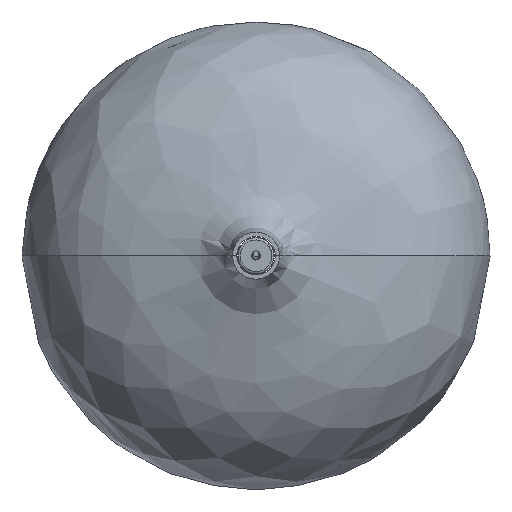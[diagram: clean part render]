
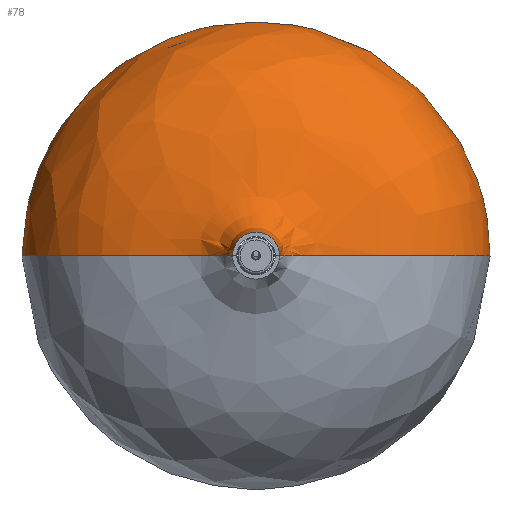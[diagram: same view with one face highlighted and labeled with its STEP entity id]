
A CAD part, top view. The second image highlights one B-rep face of the part: STEP entity #78.
In plain terms, the highlighted free-form (B-spline) face has degree [3, 2] with [8, 5] control points.
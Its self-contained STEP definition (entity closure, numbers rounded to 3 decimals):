
#36=B_SPLINE_CURVE_WITH_KNOTS('',3,(#2552,#2553,#2554,#2555,#2556,#2557,
#2558,#2559),.UNSPECIFIED.,.F.,.F.,(4,1,1,1,1,4),(0.,58.339,116.678,
175.017,233.355,291.694),.UNSPECIFIED.);
#78=ADVANCED_FACE('',(#109),#439,.T.);
#109=FACE_OUTER_BOUND('',#145,.T.);
#145=EDGE_LOOP('',(#244,#245,#246,#247));
#244=ORIENTED_EDGE('',*,*,#319,.T.);
#245=ORIENTED_EDGE('',*,*,#318,.F.);
#246=ORIENTED_EDGE('',*,*,#317,.F.);
#247=ORIENTED_EDGE('',*,*,#320,.F.);
#317=EDGE_CURVE('',#407,#408,#36,.T.);
#318=EDGE_CURVE('',#408,#410,#367,.T.);
#319=EDGE_CURVE('',#409,#410,#368,.T.);
#320=EDGE_CURVE('',#409,#407,#369,.T.);
#367=(
BOUNDED_CURVE()
B_SPLINE_CURVE(2,(#2560,#2561,#2562,#2563,#2564),.UNSPECIFIED.,.F.,.F.)
B_SPLINE_CURVE_WITH_KNOTS((3,2,3),(-1723.696,-1292.772,
-861.848),.UNSPECIFIED.)
CURVE()
GEOMETRIC_REPRESENTATION_ITEM()
RATIONAL_B_SPLINE_CURVE((1.,0.707,1.,0.707,1.))
REPRESENTATION_ITEM('')
);
#368=(
BOUNDED_CURVE()
B_SPLINE_CURVE(3,(#2565,#2566,#2567,#2568,#2569,#2570,#2571,#2572),
 .UNSPECIFIED.,.F.,.F.)
B_SPLINE_CURVE_WITH_KNOTS((4,1,1,1,1,4),(0.,58.339,116.678,
175.017,233.355,291.694),.UNSPECIFIED.)
CURVE()
GEOMETRIC_REPRESENTATION_ITEM()
RATIONAL_B_SPLINE_CURVE((1.,1.,1.,1.,1.,1.,1.,1.))
REPRESENTATION_ITEM('')
);
#369=(
BOUNDED_CURVE()
B_SPLINE_CURVE(2,(#2573,#2574,#2575,#2576,#2577),.UNSPECIFIED.,.F.,.F.)
B_SPLINE_CURVE_WITH_KNOTS((3,2,3),(861.848,1292.772,1723.696),
 .UNSPECIFIED.)
CURVE()
GEOMETRIC_REPRESENTATION_ITEM()
RATIONAL_B_SPLINE_CURVE((1.,0.707,1.,0.707,1.))
REPRESENTATION_ITEM('')
);
#407=VERTEX_POINT('',#2539);
#408=VERTEX_POINT('',#2540);
#409=VERTEX_POINT('',#2541);
#410=VERTEX_POINT('',#2542);
#439=(
BOUNDED_SURFACE()
B_SPLINE_SURFACE(3,2,((#1325,#1326,#1327,#1328,#1329),(#1330,#1331,#1332,
#1333,#1334),(#1335,#1336,#1337,#1338,#1339),(#1340,#1341,#1342,#1343,#1344),
(#1345,#1346,#1347,#1348,#1349),(#1350,#1351,#1352,#1353,#1354),(#1355,
#1356,#1357,#1358,#1359),(#1360,#1361,#1362,#1363,#1364)),.UNSPECIFIED.,
 .F.,.F.,.F.)
B_SPLINE_SURFACE_WITH_KNOTS((4,1,1,1,1,4),(3,2,3),(0.,58.339,
116.678,175.017,233.355,291.694),(0.,
560.366,1120.733),.UNSPECIFIED.)
GEOMETRIC_REPRESENTATION_ITEM()
RATIONAL_B_SPLINE_SURFACE(((1.,0.707,1.,0.707,1.),
(1.,0.707,1.,0.707,1.),(1.,0.707,1.,
0.707,1.),(1.,0.707,1.,0.707,1.),(1.,
0.707,1.,0.707,1.),(1.,0.707,1.,0.707,
1.),(1.,0.707,1.,0.707,1.),(1.,0.707,
1.,0.707,1.)))
REPRESENTATION_ITEM('')
SURFACE()
);
#1325=CARTESIAN_POINT('',(481.771,0.,200.));
#1326=CARTESIAN_POINT('',(481.771,27.5,200.));
#1327=CARTESIAN_POINT('',(454.271,27.5,200.));
#1328=CARTESIAN_POINT('',(426.771,27.5,200.));
#1329=CARTESIAN_POINT('',(426.771,0.,200.));
#1330=CARTESIAN_POINT('',(481.771,0.,136.306));
#1331=CARTESIAN_POINT('',(481.771,27.5,136.306));
#1332=CARTESIAN_POINT('',(454.271,27.5,136.306));
#1333=CARTESIAN_POINT('',(426.771,27.5,136.306));
#1334=CARTESIAN_POINT('',(426.771,0.,136.306));
#1335=CARTESIAN_POINT('',(620.72,0.,132.39));
#1336=CARTESIAN_POINT('',(620.72,166.449,132.39));
#1337=CARTESIAN_POINT('',(454.271,166.449,132.39));
#1338=CARTESIAN_POINT('',(287.822,166.449,132.39));
#1339=CARTESIAN_POINT('',(287.822,0.,132.39));
#1340=CARTESIAN_POINT('',(729.57,0.,37.664));
#1341=CARTESIAN_POINT('',(729.57,275.299,37.664));
#1342=CARTESIAN_POINT('',(454.271,275.299,37.664));
#1343=CARTESIAN_POINT('',(178.972,275.299,37.664));
#1344=CARTESIAN_POINT('',(178.972,0.,37.664));
#1345=CARTESIAN_POINT('',(734.454,0.,-100.686));
#1346=CARTESIAN_POINT('',(734.454,280.183,-100.686));
#1347=CARTESIAN_POINT('',(454.271,280.183,-100.686));
#1348=CARTESIAN_POINT('',(174.088,280.183,-100.686));
#1349=CARTESIAN_POINT('',(174.088,0.,-100.686));
#1350=CARTESIAN_POINT('',(662.119,0.,-185.343));
#1351=CARTESIAN_POINT('',(662.119,207.848,-185.343));
#1352=CARTESIAN_POINT('',(454.271,207.848,-185.343));
#1353=CARTESIAN_POINT('',(246.423,207.848,-185.343));
#1354=CARTESIAN_POINT('',(246.423,0.,-185.343));
#1355=CARTESIAN_POINT('',(624.761,0.,-200.));
#1356=CARTESIAN_POINT('',(624.761,170.49,-200.));
#1357=CARTESIAN_POINT('',(454.271,170.49,-200.));
#1358=CARTESIAN_POINT('',(283.781,170.49,-200.));
#1359=CARTESIAN_POINT('',(283.781,0.,-200.));
#1360=CARTESIAN_POINT('',(561.542,0.,-200.));
#1361=CARTESIAN_POINT('',(561.542,107.27,-200.));
#1362=CARTESIAN_POINT('',(454.271,107.27,-200.));
#1363=CARTESIAN_POINT('',(347.001,107.27,-200.));
#1364=CARTESIAN_POINT('',(347.001,0.,-200.));
#2539=CARTESIAN_POINT('',(426.771,0.,200.));
#2540=CARTESIAN_POINT('',(347.001,0.,-200.));
#2541=CARTESIAN_POINT('',(481.771,0.,200.));
#2542=CARTESIAN_POINT('',(561.542,0.,-200.));
#2552=CARTESIAN_POINT('',(426.771,0.,200.));
#2553=CARTESIAN_POINT('',(426.771,0.,136.306));
#2554=CARTESIAN_POINT('',(287.822,0.,132.39));
#2555=CARTESIAN_POINT('',(178.972,0.,37.664));
#2556=CARTESIAN_POINT('',(174.088,0.,-100.686));
#2557=CARTESIAN_POINT('',(246.423,0.,-185.343));
#2558=CARTESIAN_POINT('',(283.781,0.,-200.));
#2559=CARTESIAN_POINT('',(347.001,0.,-200.));
#2560=CARTESIAN_POINT('',(347.001,0.,-200.));
#2561=CARTESIAN_POINT('',(347.001,107.27,-200.));
#2562=CARTESIAN_POINT('',(454.271,107.27,-200.));
#2563=CARTESIAN_POINT('',(561.542,107.27,-200.));
#2564=CARTESIAN_POINT('',(561.542,0.,-200.));
#2565=CARTESIAN_POINT('',(481.771,0.,200.));
#2566=CARTESIAN_POINT('',(481.771,0.,136.306));
#2567=CARTESIAN_POINT('',(620.72,0.,132.39));
#2568=CARTESIAN_POINT('',(729.57,0.,37.664));
#2569=CARTESIAN_POINT('',(734.454,0.,-100.686));
#2570=CARTESIAN_POINT('',(662.119,0.,-185.343));
#2571=CARTESIAN_POINT('',(624.761,0.,-200.));
#2572=CARTESIAN_POINT('',(561.542,0.,-200.));
#2573=CARTESIAN_POINT('',(481.771,0.,200.));
#2574=CARTESIAN_POINT('',(481.771,27.5,200.));
#2575=CARTESIAN_POINT('',(454.271,27.5,200.));
#2576=CARTESIAN_POINT('',(426.771,27.5,200.));
#2577=CARTESIAN_POINT('',(426.771,0.,200.));
